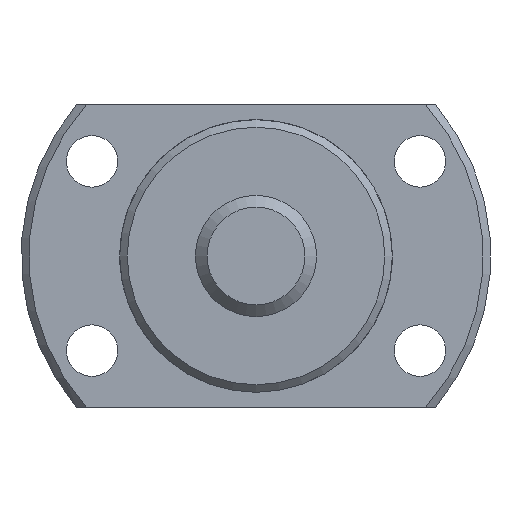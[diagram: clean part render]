
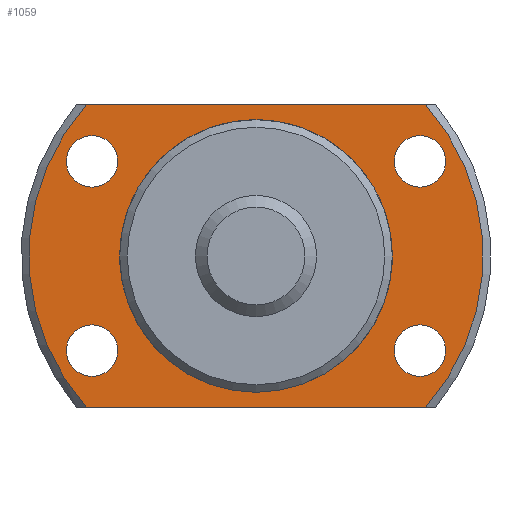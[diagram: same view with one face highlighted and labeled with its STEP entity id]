
A CAD part, left-side view. The second image highlights one B-rep face of the part: STEP entity #1059.
In plain terms, the highlighted planar face has unit normal (-1, 0, 0).
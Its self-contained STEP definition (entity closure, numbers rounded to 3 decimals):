
#91=LINE('',#1801,#161);
#92=LINE('',#1805,#162);
#161=VECTOR('',#1448,1000.);
#162=VECTOR('',#1451,1000.);
#319=ORIENTED_EDGE('',*,*,#559,.T.);
#320=ORIENTED_EDGE('',*,*,#560,.T.);
#321=ORIENTED_EDGE('',*,*,#561,.T.);
#322=ORIENTED_EDGE('',*,*,#562,.T.);
#323=ORIENTED_EDGE('',*,*,#548,.F.);
#324=ORIENTED_EDGE('',*,*,#563,.F.);
#325=ORIENTED_EDGE('',*,*,#564,.F.);
#326=ORIENTED_EDGE('',*,*,#565,.F.);
#327=ORIENTED_EDGE('',*,*,#542,.T.);
#542=EDGE_CURVE('',#671,#671,#754,.T.);
#548=EDGE_CURVE('',#676,#677,#757,.T.);
#559=EDGE_CURVE('',#686,#686,#763,.T.);
#560=EDGE_CURVE('',#687,#687,#764,.T.);
#561=EDGE_CURVE('',#688,#688,#765,.T.);
#562=EDGE_CURVE('',#689,#689,#766,.T.);
#563=EDGE_CURVE('',#690,#676,#91,.T.);
#564=EDGE_CURVE('',#691,#690,#767,.T.);
#565=EDGE_CURVE('',#677,#691,#92,.T.);
#671=VERTEX_POINT('',#1744);
#676=VERTEX_POINT('',#1758);
#677=VERTEX_POINT('',#1760);
#686=VERTEX_POINT('',#1794);
#687=VERTEX_POINT('',#1796);
#688=VERTEX_POINT('',#1798);
#689=VERTEX_POINT('',#1800);
#690=VERTEX_POINT('',#1802);
#691=VERTEX_POINT('',#1804);
#754=CIRCLE('',#1188,8.85);
#757=CIRCLE('',#1192,15.);
#763=CIRCLE('',#1203,1.7);
#764=CIRCLE('',#1204,1.7);
#765=CIRCLE('',#1205,1.7);
#766=CIRCLE('',#1206,1.7);
#767=CIRCLE('',#1207,15.);
#827=EDGE_LOOP('',(#319));
#828=EDGE_LOOP('',(#320));
#829=EDGE_LOOP('',(#321));
#830=EDGE_LOOP('',(#322));
#831=EDGE_LOOP('',(#323,#324,#325,#326));
#832=EDGE_LOOP('',(#327));
#931=FACE_BOUND('',#827,.T.);
#932=FACE_BOUND('',#828,.T.);
#933=FACE_BOUND('',#829,.T.);
#934=FACE_BOUND('',#830,.T.);
#935=FACE_BOUND('',#831,.T.);
#936=FACE_BOUND('',#832,.T.);
#997=PLANE('',#1202);
#1059=ADVANCED_FACE('',(#931,#932,#933,#934,#935,#936),#997,.F.);
#1188=AXIS2_PLACEMENT_3D('',#1743,#1406,#1407);
#1192=AXIS2_PLACEMENT_3D('',#1759,#1416,#1417);
#1202=AXIS2_PLACEMENT_3D('',#1792,#1438,#1439);
#1203=AXIS2_PLACEMENT_3D('',#1793,#1440,#1441);
#1204=AXIS2_PLACEMENT_3D('',#1795,#1442,#1443);
#1205=AXIS2_PLACEMENT_3D('',#1797,#1444,#1445);
#1206=AXIS2_PLACEMENT_3D('',#1799,#1446,#1447);
#1207=AXIS2_PLACEMENT_3D('',#1803,#1449,#1450);
#1406=DIRECTION('',(1.,0.,0.));
#1407=DIRECTION('',(0.,0.,-1.));
#1416=DIRECTION('',(1.,0.,0.));
#1417=DIRECTION('',(0.,0.,-1.));
#1438=DIRECTION('',(1.,0.,0.));
#1439=DIRECTION('',(0.,0.,-1.));
#1440=DIRECTION('',(1.,0.,0.));
#1441=DIRECTION('',(0.,0.,-1.));
#1442=DIRECTION('',(1.,0.,0.));
#1443=DIRECTION('',(0.,0.,-1.));
#1444=DIRECTION('',(1.,0.,0.));
#1445=DIRECTION('',(0.,0.,-1.));
#1446=DIRECTION('',(1.,0.,0.));
#1447=DIRECTION('',(0.,0.,-1.));
#1448=DIRECTION('',(0.,1.,0.));
#1449=DIRECTION('',(1.,0.,0.));
#1450=DIRECTION('',(0.,0.,-1.));
#1451=DIRECTION('',(0.,-1.,0.));
#1743=CARTESIAN_POINT('',(24.,0.,0.));
#1744=CARTESIAN_POINT('',(24.,0.,-8.85));
#1758=CARTESIAN_POINT('',(24.,11.18,-10.));
#1759=CARTESIAN_POINT('',(24.,0.,0.));
#1760=CARTESIAN_POINT('',(24.,11.18,10.));
#1792=CARTESIAN_POINT('',(24.,8.85,0.));
#1793=CARTESIAN_POINT('',(24.,-10.825,-6.25));
#1794=CARTESIAN_POINT('',(24.,-10.825,-7.95));
#1795=CARTESIAN_POINT('',(24.,-10.825,6.25));
#1796=CARTESIAN_POINT('',(24.,-10.825,4.55));
#1797=CARTESIAN_POINT('',(24.,10.825,-6.25));
#1798=CARTESIAN_POINT('',(24.,10.825,-7.95));
#1799=CARTESIAN_POINT('',(24.,10.825,6.25));
#1800=CARTESIAN_POINT('',(24.,10.825,4.55));
#1801=CARTESIAN_POINT('',(24.,-20.5,-10.));
#1802=CARTESIAN_POINT('',(24.,-11.18,-10.));
#1803=CARTESIAN_POINT('',(24.,0.,0.));
#1804=CARTESIAN_POINT('',(24.,-11.18,10.));
#1805=CARTESIAN_POINT('',(24.,20.5,10.));
